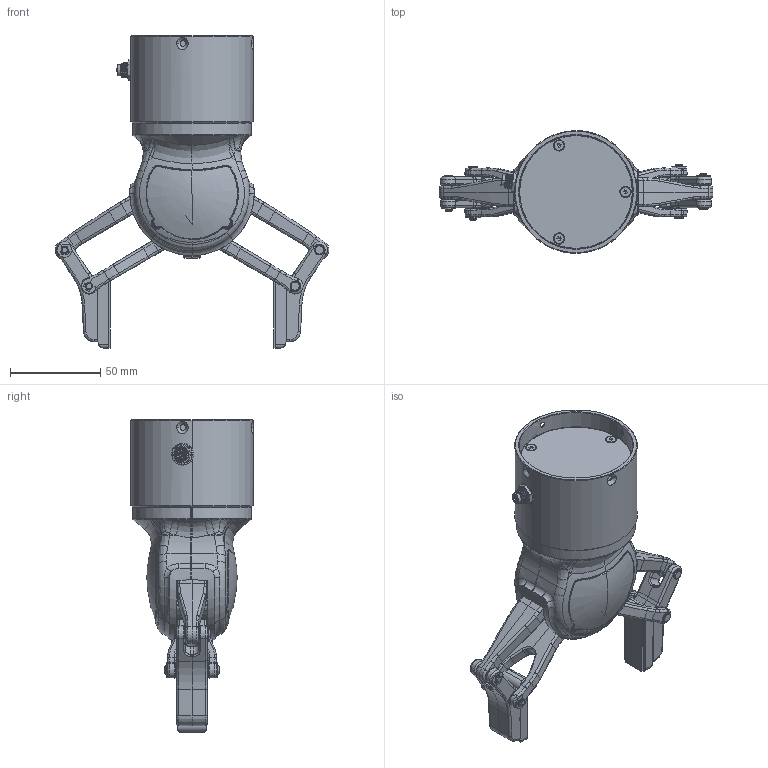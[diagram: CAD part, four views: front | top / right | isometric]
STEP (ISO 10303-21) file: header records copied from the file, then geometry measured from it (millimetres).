
FILE_DESCRIPTION((''),'2;1');
FILE_NAME('20001_ASM','2023-09-11T14:28:19',('zcz20'),(''),'CREO PARAMETRIC BY PTC INC, 2022164','CREO PARAMETRIC BY PTC INC, 2022164','');
FILE_SCHEMA(('CONFIG_CONTROL_DESIGN','SHAPE_APPEARANCE_LAYERS_GROUPS'));
Products named in the file (54): CROSS_RECESSED_SMALL_PAN-240957; 00; 0002; 100; 0003; HEXAGON_SOCKET_COUNTERSUN-85130; _0001; HEXAGON_SOCKET_COUNTERSU-244653; CROSS_RECESSED_COUNTERSUNK-2388; _1_250001; E-M40; _0003; _M40001; _0002_ASM; HEXAGON_SOCKET_HEAD_CAP_SCREWS_; _M30001; _M3H60001; _10001; _5_7_0001; _5_8_0001; _5_6_0001; _40001; _5_4_0001; _5_5_0001; _5_2_0001; _5_1_0001; _5_3_0001; IO0001_ASM; _M30002; _0005; _D8H1_00001; _0004_ASM; _2_00001; _M4L8000; _M4L10000; _0007; _0006_ASM; _0009; _M40002; _0008_ASM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
Assembly tree (79 placements, depth 5):
  20001_ASM
    2_10001_ASM
      CROSS_RECESSED_SMALL_PAN-240957  x2
      00
      0002
      100  x2
      0003
      HEXAGON_SOCKET_COUNTERSUN-85130  x4
      _0001
      HEXAGON_SOCKET_COUNTERSU-244653  x2
      CROSS_RECESSED_COUNTERSUNK-2388  x3
      _1_250001
      _0002_ASM  x2
        E-M40
        _0003
        _M40001
      HEXAGON_SOCKET_HEAD_CAP_SCREWS_  x4
      _0004_ASM
        _M30001  x3
        _M3H60001  x3
        IO0001_ASM
          _10001
          _5_7_0001
          _5_8_0001
          _5_6_0001
          _40001
          _5_4_0001
          _5_5_0001
          _5_2_0001
          _5_1_0001
          _5_3_0001
        _M30002  x3
        00
        _0005
        _D8H1_00001
      _2_00001
      _0006_ASM  x2
        _M4L8000
        _M4L10000
        _0007
      _0008_ASM  x2
        _M4L10000
        _0009
        _M40002
        E-M40
      0005  x2
      _2_0-2P0001_ASM
        _6_2_-359600001
        1-11171600
        _6_1_-1543340001
      _1_25-4P0001_ASM
        _6_1_-1215510001
        _6_2_-1880610001
        1-19216800
        _6_3_0001
        _6_4_0001
    0002
Bounding box: 151.87 x 68 x 173.34 mm (x, y, z)
Volume: 159698 mm3; surface area: 131728.3 mm2
Topology: 80 solids, 84 shells, 4250 faces, 10829 edges, 6691 vertices
Faces by surface type: plane 1373, cylinder 1233, bspline 696, cone 568, torus 240, sphere 120, revolution 20
Entity records: 125583 total; most frequent: CARTESIAN_POINT 55262, ORIENTED_EDGE 15420, DIRECTION 13131, EDGE_CURVE 7710, AXIS2_PLACEMENT_3D 4943, VERTEX_POINT 4908, VECTOR 3229, LINE 3229
